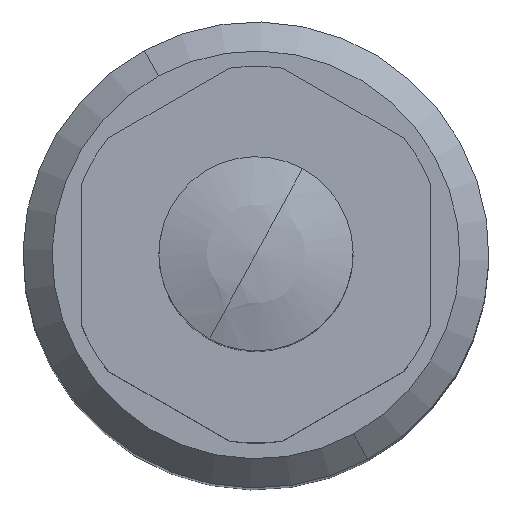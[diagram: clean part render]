
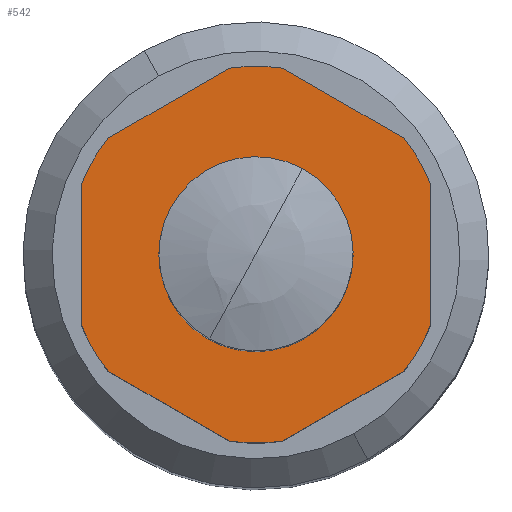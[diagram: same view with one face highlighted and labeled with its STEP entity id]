
A CAD part, top view. The second image highlights one B-rep face of the part: STEP entity #542.
In plain terms, the highlighted planar face has unit normal (0, 0, 1).
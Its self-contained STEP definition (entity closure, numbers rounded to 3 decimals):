
#129=CARTESIAN_POINT('Vertex',(1.199,-2.194,40.)) ;
#145=CARTESIAN_POINT('Vertex',(-1.199,2.194,40.)) ;
#148=CARTESIAN_POINT('Axis2P3D Location',(0.,0.,40.)) ;
#165=CARTESIAN_POINT('Axis2P3D Location',(0.,0.,40.)) ;
#435=CARTESIAN_POINT('Axis2P3D Location',(0.,4.85,40.)) ;
#440=CARTESIAN_POINT('Line Origine',(4.5,0.,40.)) ;
#444=CARTESIAN_POINT('Vertex',(4.5,-1.809,40.)) ;
#446=CARTESIAN_POINT('Vertex',(4.5,1.809,40.)) ;
#449=CARTESIAN_POINT('Axis2P3D Location',(0.,0.,40.)) ;
#453=CARTESIAN_POINT('Vertex',(3.817,2.993,40.)) ;
#456=CARTESIAN_POINT('Line Origine',(2.25,3.897,40.)) ;
#460=CARTESIAN_POINT('Vertex',(0.683,4.802,40.)) ;
#463=CARTESIAN_POINT('Axis2P3D Location',(0.,0.,40.)) ;
#467=CARTESIAN_POINT('Vertex',(-0.683,4.802,40.)) ;
#470=CARTESIAN_POINT('Line Origine',(-2.25,3.897,40.)) ;
#474=CARTESIAN_POINT('Vertex',(-3.817,2.993,40.)) ;
#477=CARTESIAN_POINT('Axis2P3D Location',(0.,0.,40.)) ;
#481=CARTESIAN_POINT('Vertex',(-4.5,1.809,40.)) ;
#484=CARTESIAN_POINT('Line Origine',(-4.5,0.,40.)) ;
#488=CARTESIAN_POINT('Vertex',(-4.5,-1.809,40.)) ;
#491=CARTESIAN_POINT('Axis2P3D Location',(0.,0.,40.)) ;
#495=CARTESIAN_POINT('Vertex',(-3.817,-2.993,40.)) ;
#498=CARTESIAN_POINT('Line Origine',(-2.25,-3.897,40.)) ;
#502=CARTESIAN_POINT('Vertex',(-0.683,-4.802,40.)) ;
#505=CARTESIAN_POINT('Axis2P3D Location',(0.,0.,40.)) ;
#509=CARTESIAN_POINT('Vertex',(0.683,-4.802,40.)) ;
#512=CARTESIAN_POINT('Line Origine',(2.25,-3.897,40.)) ;
#516=CARTESIAN_POINT('Vertex',(3.817,-2.993,40.)) ;
#519=CARTESIAN_POINT('Axis2P3D Location',(0.,0.,40.)) ;
#149=DIRECTION('Axis2P3D Direction',(0.,0.,1.)) ;
#166=DIRECTION('Axis2P3D Direction',(0.,0.,1.)) ;
#436=DIRECTION('Axis2P3D Direction',(0.,0.,1.)) ;
#437=DIRECTION('Axis2P3D XDirection',(1.,0.,0.)) ;
#441=DIRECTION('Vector Direction',(0.,1.,0.)) ;
#450=DIRECTION('Axis2P3D Direction',(0.,0.,1.)) ;
#457=DIRECTION('Vector Direction',(-0.866,0.5,0.)) ;
#464=DIRECTION('Axis2P3D Direction',(0.,0.,1.)) ;
#471=DIRECTION('Vector Direction',(-0.866,-0.5,0.)) ;
#478=DIRECTION('Axis2P3D Direction',(0.,0.,1.)) ;
#485=DIRECTION('Vector Direction',(0.,-1.,0.)) ;
#492=DIRECTION('Axis2P3D Direction',(0.,0.,1.)) ;
#499=DIRECTION('Vector Direction',(0.866,-0.5,0.)) ;
#506=DIRECTION('Axis2P3D Direction',(0.,0.,1.)) ;
#513=DIRECTION('Vector Direction',(0.866,0.5,0.)) ;
#520=DIRECTION('Axis2P3D Direction',(0.,0.,1.)) ;
#150=AXIS2_PLACEMENT_3D('Circle Axis2P3D',#148,#149,$) ;
#167=AXIS2_PLACEMENT_3D('Circle Axis2P3D',#165,#166,$) ;
#438=AXIS2_PLACEMENT_3D('Plane Axis2P3D',#435,#436,#437) ;
#451=AXIS2_PLACEMENT_3D('Circle Axis2P3D',#449,#450,$) ;
#465=AXIS2_PLACEMENT_3D('Circle Axis2P3D',#463,#464,$) ;
#479=AXIS2_PLACEMENT_3D('Circle Axis2P3D',#477,#478,$) ;
#493=AXIS2_PLACEMENT_3D('Circle Axis2P3D',#491,#492,$) ;
#507=AXIS2_PLACEMENT_3D('Circle Axis2P3D',#505,#506,$) ;
#521=AXIS2_PLACEMENT_3D('Circle Axis2P3D',#519,#520,$) ;
#525=ORIENTED_EDGE('',*,*,#448,.T.) ;
#526=ORIENTED_EDGE('',*,*,#455,.T.) ;
#527=ORIENTED_EDGE('',*,*,#462,.T.) ;
#528=ORIENTED_EDGE('',*,*,#469,.T.) ;
#529=ORIENTED_EDGE('',*,*,#476,.T.) ;
#530=ORIENTED_EDGE('',*,*,#483,.T.) ;
#531=ORIENTED_EDGE('',*,*,#490,.T.) ;
#532=ORIENTED_EDGE('',*,*,#497,.T.) ;
#533=ORIENTED_EDGE('',*,*,#504,.T.) ;
#534=ORIENTED_EDGE('',*,*,#511,.T.) ;
#535=ORIENTED_EDGE('',*,*,#518,.T.) ;
#536=ORIENTED_EDGE('',*,*,#523,.T.) ;
#539=ORIENTED_EDGE('',*,*,#152,.F.) ;
#540=ORIENTED_EDGE('',*,*,#169,.F.) ;
#541=FACE_BOUND('',#538,.T.) ;
#442=VECTOR('Line Direction',#441,1.) ;
#458=VECTOR('Line Direction',#457,1.) ;
#472=VECTOR('Line Direction',#471,1.) ;
#486=VECTOR('Line Direction',#485,1.) ;
#500=VECTOR('Line Direction',#499,1.) ;
#514=VECTOR('Line Direction',#513,1.) ;
#542=ADVANCED_FACE('PartBody',(#537,#541),#439,.T.) ;
#151=CIRCLE('generated circle',#150,2.5) ;
#168=CIRCLE('generated circle',#167,2.5) ;
#452=CIRCLE('generated circle',#451,4.85) ;
#466=CIRCLE('generated circle',#465,4.85) ;
#480=CIRCLE('generated circle',#479,4.85) ;
#494=CIRCLE('generated circle',#493,4.85) ;
#508=CIRCLE('generated circle',#507,4.85) ;
#522=CIRCLE('generated circle',#521,4.85) ;
#152=EDGE_CURVE('',#146,#130,#151,.T.) ;
#169=EDGE_CURVE('',#130,#146,#168,.T.) ;
#448=EDGE_CURVE('',#445,#447,#443,.T.) ;
#455=EDGE_CURVE('',#447,#454,#452,.T.) ;
#462=EDGE_CURVE('',#454,#461,#459,.T.) ;
#469=EDGE_CURVE('',#461,#468,#466,.T.) ;
#476=EDGE_CURVE('',#468,#475,#473,.T.) ;
#483=EDGE_CURVE('',#475,#482,#480,.T.) ;
#490=EDGE_CURVE('',#482,#489,#487,.T.) ;
#497=EDGE_CURVE('',#489,#496,#494,.T.) ;
#504=EDGE_CURVE('',#496,#503,#501,.T.) ;
#511=EDGE_CURVE('',#503,#510,#508,.T.) ;
#518=EDGE_CURVE('',#510,#517,#515,.T.) ;
#523=EDGE_CURVE('',#517,#445,#522,.T.) ;
#524=EDGE_LOOP('',(#525,#526,#527,#528,#529,#530,#531,#532,#533,#534,#535,#536)) ;
#538=EDGE_LOOP('',(#539,#540)) ;
#537=FACE_OUTER_BOUND('',#524,.T.) ;
#443=LINE('Line',#440,#442) ;
#459=LINE('Line',#456,#458) ;
#473=LINE('Line',#470,#472) ;
#487=LINE('Line',#484,#486) ;
#501=LINE('Line',#498,#500) ;
#515=LINE('Line',#512,#514) ;
#439=PLANE('Plane',#438) ;
#130=VERTEX_POINT('',#129) ;
#146=VERTEX_POINT('',#145) ;
#445=VERTEX_POINT('',#444) ;
#447=VERTEX_POINT('',#446) ;
#454=VERTEX_POINT('',#453) ;
#461=VERTEX_POINT('',#460) ;
#468=VERTEX_POINT('',#467) ;
#475=VERTEX_POINT('',#474) ;
#482=VERTEX_POINT('',#481) ;
#489=VERTEX_POINT('',#488) ;
#496=VERTEX_POINT('',#495) ;
#503=VERTEX_POINT('',#502) ;
#510=VERTEX_POINT('',#509) ;
#517=VERTEX_POINT('',#516) ;
